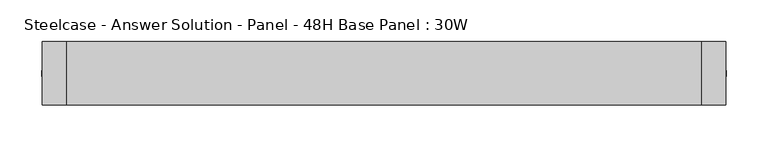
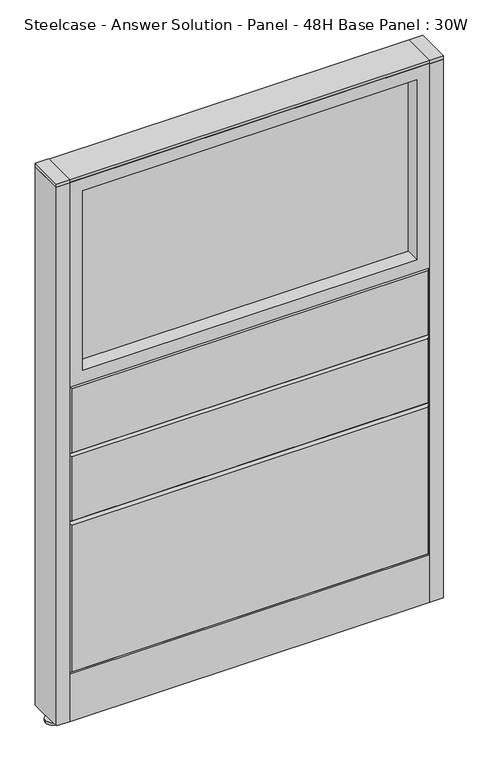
"""IFC4 building model written with IfcOpenShell, lengths in millimetres: furniture geometry, Steelcase - Answer Solution - Panel - 48H Base Panel : 30W."""

from ifc_helpers import new_model, si_unit, point, frame, frame_2d, origin, place, context, project, spatial, polyline, circle_curve, trimmed, segment, composite_curve, outline, extrude, faceted_brep, source, transform, mapped, element, save


def steelcase_answer_solution_panel_48h_base_panel_30w_3c8f732b(model_context):
    return source(origin(), model_context, "Body", "SolidModel", [
        extrude(outline(composite_curve([segment(trimmed(circle_curve(frame_2d((395.224, 0.0320214)), 5.08), [point((400.304, 0.0320214))], [point((390.144, 0.0320214))], False, "CARTESIAN"), True, "CONTINUOUS"), segment(trimmed(circle_curve(frame_2d((395.224, 0.0320214)), 5.08), [point((390.144, 0.0320214))], [point((400.304, 0.0320214))], False, "CARTESIAN"), True, "CONTINUOUS")], self_intersect=False)), frame((0.0, 0.0, 5.0799671), z_axis=(0.0, 0.0, 1.0), x_axis=(1.0, 0.0, 0.0)), (0.0, 0.0, 1.0), 10.414),
        extrude(outline(composite_curve([segment(trimmed(circle_curve(frame_2d((395.224, 0.0320214)), 15.24), [point((410.464, 0.0320214))], [point((379.984, 0.0320214))], False, "CARTESIAN"), True, "CONTINUOUS"), segment(trimmed(circle_curve(frame_2d((395.224, 0.0320214)), 15.24), [point((379.984, 0.0320214))], [point((410.464, 0.0320214))], False, "CARTESIAN"), True, "CONTINUOUS")], self_intersect=False)), frame((0.0, 0.0, -3.29e-05), z_axis=(0.0, 0.0, 1.0), x_axis=(1.0, 0.0, 0.0)), (0.0, 0.0, 1.0), 5.08),
        extrude(outline(polyline([(409.575, 38.1320408), (409.575, -38.0679592), (381.0, -38.0679592), (381.0, 38.1320408), (409.575, 38.1320408)])), frame((0.0, 0.0, 1218.2348), z_axis=(0.0, 0.0, 1.0), x_axis=(1.0, 0.0, 0.0)), (0.0, 0.0, 1.0), 7.3151671),
        extrude(outline(polyline([(409.575, 38.1320408), (409.575, -38.0679592), (381.0, -38.0679592), (381.0, 38.1320408), (409.575, 38.1320408)])), frame((0.0, 0.0, 15.4939671), z_axis=(0.0, 0.0, 1.0), x_axis=(1.0, 0.0, 0.0)), (0.0, 0.0, 1.0), 1202.7408329),
        extrude(outline(composite_curve([segment(trimmed(circle_curve(frame_2d((-395.224, 0.0320214)), 5.08), [point((-400.304, 0.0320214))], [point((-390.144, 0.0320214))], False, "CARTESIAN"), True, "CONTINUOUS"), segment(trimmed(circle_curve(frame_2d((-395.224, 0.0320214)), 5.08), [point((-390.144, 0.0320214))], [point((-400.304, 0.0320214))], False, "CARTESIAN"), True, "CONTINUOUS")], self_intersect=False)), frame((0.0, 0.0, 5.0799671), z_axis=(0.0, 0.0, 1.0), x_axis=(1.0, 0.0, 0.0)), (0.0, 0.0, 1.0), 10.414),
        extrude(outline(composite_curve([segment(trimmed(circle_curve(frame_2d((-395.224, 0.0320214)), 15.24), [point((-410.464, 0.0320214))], [point((-379.984, 0.0320214))], False, "CARTESIAN"), True, "CONTINUOUS"), segment(trimmed(circle_curve(frame_2d((-395.224, 0.0320214)), 15.24), [point((-379.984, 0.0320214))], [point((-410.464, 0.0320214))], False, "CARTESIAN"), True, "CONTINUOUS")], self_intersect=False)), frame((0.0, 0.0, -3.29e-05), z_axis=(0.0, 0.0, 1.0), x_axis=(1.0, 0.0, 0.0)), (0.0, 0.0, 1.0), 5.08),
        extrude(outline(polyline([(-409.575, 38.1320408), (-381.0, 38.1320408), (-381.0, -38.0679592), (-409.575, -38.0679592), (-409.575, 38.1320408)])), frame((0.0, 0.0, 1218.2348), z_axis=(0.0, 0.0, 1.0), x_axis=(1.0, 0.0, 0.0)), (0.0, 0.0, 1.0), 7.3151671),
        extrude(outline(polyline([(-409.575, 38.1320408), (-381.0, 38.1320408), (-381.0, -38.0679592), (-409.575, -38.0679592), (-409.575, 38.1320408)])), frame((0.0, 0.0, 15.4939671), z_axis=(0.0, 0.0, 1.0), x_axis=(1.0, 0.0, 0.0)), (0.0, 0.0, 1.0), 1202.7408329),
        extrude(outline(polyline([(-353.06, 6.346049), (353.06, 6.346049), (353.06, -6.353951), (-353.06, -6.353951), (-353.06, 6.346049)])), frame((0.0, 0.0, 789.94), z_axis=(0.0, 0.0, 1.0), x_axis=(1.0, 0.0, 0.0)), (0.0, 0.0, 1.0), 401.32),
        extrude(outline(polyline([(1219.2, -381.0), (762.0, -381.0), (762.0, 381.0), (1219.2, 381.0), (1219.2, -381.0)]), holes=[polyline([(1191.26, -353.06), (1191.26, 353.06), (789.94, 353.06), (789.94, -353.06), (1191.26, -353.06)])]), frame((0.0, -38.103951, 0.0), z_axis=(0.0, 1.0, 0.0), x_axis=(0.0, 0.0, 1.0)), (0.0, 0.0, 1.0), 76.2),
        faceted_brep([(-376.174, 38.1635011, 757.174), (376.174, 38.1635011, 757.174), (376.174, 38.1635011, 614.426), (-376.174, 38.1635011, 614.426), (-381.0, 33.3375011, 762.0), (-381.0, 33.3375011, 609.6), (381.0, 33.3375011, 609.6), (381.0, 33.3375011, 762.0)], [[[0, 1, 2, 3]], [[4, 5, 6, 7]], [[4, 7, 1, 0]], [[7, 6, 2, 1]], [[6, 5, 3, 2]], [[5, 4, 0, 3]]]),
        faceted_brep([(-376.174, 38.1635011, 604.774), (376.174, 38.1635011, 604.774), (376.174, 38.1635011, 462.026), (-376.174, 38.1635011, 462.026), (-381.0, 33.3375011, 609.6), (-381.0, 33.3375011, 457.2), (381.0, 33.3375011, 457.2), (381.0, 33.3375011, 609.6)], [[[0, 1, 2, 3]], [[4, 5, 6, 7]], [[4, 7, 1, 0]], [[7, 6, 2, 1]], [[6, 5, 3, 2]], [[5, 4, 0, 3]]]),
        faceted_brep([(-376.174, 38.1635011, 452.374), (376.174, 38.1635011, 452.374), (376.174, 38.1635011, 125.476), (-376.174, 38.1635011, 125.476), (-381.0, 33.3375011, 457.2), (-381.0, 33.3375011, 120.65), (381.0, 33.3375011, 120.65), (381.0, 33.3375011, 457.2)], [[[0, 1, 2, 3]], [[4, 5, 6, 7]], [[4, 7, 1, 0]], [[7, 6, 2, 1]], [[6, 5, 3, 2]], [[5, 4, 0, 3]]]),
        extrude(outline(polyline([(353.06, -6.346049), (-353.06, -6.346049), (-353.06, 6.353951), (353.06, 6.353951), (353.06, -6.346049)])), frame((0.0, 0.0, 789.94), z_axis=(0.0, 0.0, 1.0), x_axis=(1.0, 0.0, 0.0)), (0.0, 0.0, 1.0), 401.32),
        extrude(outline(polyline([(1219.2, 381.0), (1219.2, -381.0), (762.0, -381.0), (762.0, 381.0), (1219.2, 381.0)]), holes=[polyline([(1191.26, 353.06), (789.94, 353.06), (789.94, -353.06), (1191.26, -353.06), (1191.26, 353.06)])]), frame((0.0, -38.096049, 0.0), z_axis=(0.0, 1.0, 0.0), x_axis=(0.0, 0.0, 1.0)), (0.0, 0.0, 1.0), 76.2),
        faceted_brep([(376.174, -38.1635011, 757.174), (-376.174, -38.1635011, 757.174), (-376.174, -38.1635011, 614.426), (376.174, -38.1635011, 614.426), (381.0, -33.3375011, 762.0), (381.0, -33.3375011, 609.6), (-381.0, -33.3375011, 609.6), (-381.0, -33.3375011, 762.0)], [[[0, 1, 2, 3]], [[4, 5, 6, 7]], [[4, 7, 1, 0]], [[7, 6, 2, 1]], [[6, 5, 3, 2]], [[5, 4, 0, 3]]]),
        faceted_brep([(376.174, -38.1635011, 604.774), (-376.174, -38.1635011, 604.774), (-376.174, -38.1635011, 462.026), (376.174, -38.1635011, 462.026), (381.0, -33.3375011, 609.6), (381.0, -33.3375011, 457.2), (-381.0, -33.3375011, 457.2), (-381.0, -33.3375011, 609.6)], [[[0, 1, 2, 3]], [[4, 5, 6, 7]], [[4, 7, 1, 0]], [[7, 6, 2, 1]], [[6, 5, 3, 2]], [[5, 4, 0, 3]]]),
        faceted_brep([(376.174, -38.1635011, 452.374), (-376.174, -38.1635011, 452.374), (-376.174, -38.1635011, 125.476), (376.174, -38.1635011, 125.476), (381.0, -33.3375011, 457.2), (381.0, -33.3375011, 120.65), (-381.0, -33.3375011, 120.65), (-381.0, -33.3375011, 457.2)], [[[0, 1, 2, 3]], [[4, 5, 6, 7]], [[4, 7, 1, 0]], [[7, 6, 2, 1]], [[6, 5, 3, 2]], [[5, 4, 0, 3]]]),
        extrude(outline(polyline([(381.0, 38.1000194), (381.0, -38.1000194), (-381.0, -38.1000194), (-381.0, 38.1000194), (381.0, 38.1000194)])), frame((0.0, 0.0, 1219.2), z_axis=(0.0, 0.0, 1.0), x_axis=(1.0, 0.0, 0.0)), (0.0, 0.0, 1.0), 6.35),
        extrude(outline(polyline([(25.4000011, 119.8575157), (25.4000011, 120.65), (38.1000194, 120.65), (38.1000194, 15.494), (37.3075215, 15.494), (37.3075215, 119.8575157), (25.4000011, 119.8575157)])), frame((-381.0, 0.0, 0.0), z_axis=(1.0, 0.0, 0.0), x_axis=(0.0, 1.0, 0.0)), (0.0, 0.0, 1.0), 762.0),
        extrude(outline(polyline([(-25.4000011, 119.8575157), (-37.3075215, 119.8575157), (-37.3075215, 15.494), (-38.1000194, 15.494), (-38.1000194, 120.65), (-25.4000011, 120.65), (-25.4000011, 119.8575157)])), frame((-381.0, 0.0, 0.0), z_axis=(1.0, 0.0, 0.0), x_axis=(0.0, 1.0, 0.0)), (0.0, 0.0, 1.0), 762.0),
    ])


if __name__ == "__main__":
    model = new_model("IFC4")
    model_context = context("Model", 3, world=origin())
    ifc_project = project(units=[si_unit("LENGTHUNIT", "METRE", prefix="MILLI")], contexts=[model_context])
    site = spatial("IfcSite", under=ifc_project)
    building = spatial("IfcBuilding", under=site)
    placement = place(None, origin())
    steelcase_answer_solution_panel_48h_base_panel_30w_shape = steelcase_answer_solution_panel_48h_base_panel_30w_3c8f732b(model_context)
    element("IfcFurniture", 1, ObjectType="Steelcase - Answer Solution - Panel - 48H Base Panel : 30W", at=placement, inside=building, context=model_context, shape_type="MappedRepresentation", body=[
        mapped(steelcase_answer_solution_panel_48h_base_panel_30w_shape, transform((0.0, 0.0, 0.0), x_axis=(1.0, 0.0, 0.0), y_axis=(0.0, 1.0, 0.0), z_axis=(0.0, 0.0, 1.0))),
    ])
    save(model, "model.ifc")
